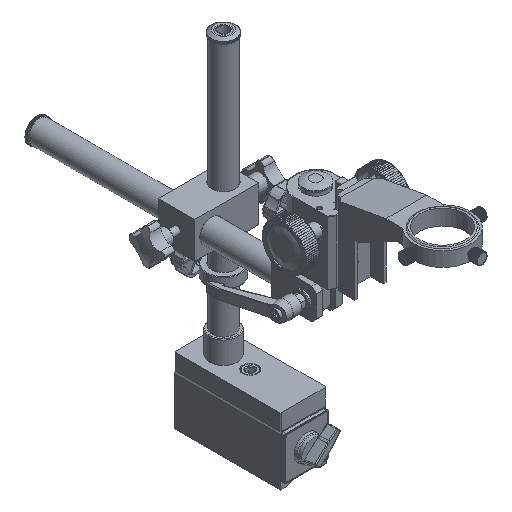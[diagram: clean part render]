
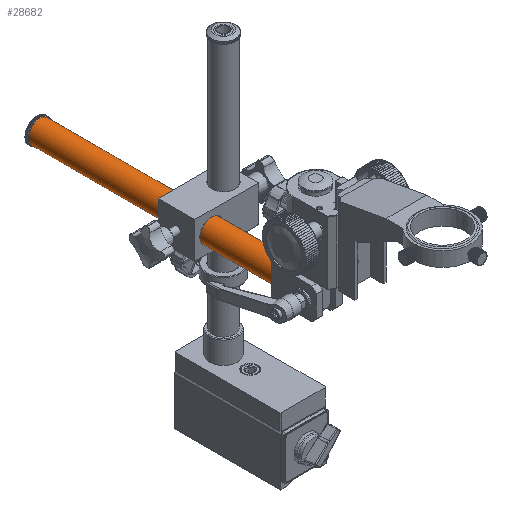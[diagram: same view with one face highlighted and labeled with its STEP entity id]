
A CAD part, isometric view. The second image highlights one B-rep face of the part: STEP entity #28682.
In plain terms, the highlighted cylindrical face has radius 12.5 mm (diameter 25 mm), a full revolution.
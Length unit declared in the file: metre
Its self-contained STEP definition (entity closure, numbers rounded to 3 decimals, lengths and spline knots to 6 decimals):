
#28682=ADVANCED_FACE('0:25961',(#57717,#57718),#57719,.T.);
#29320=EDGE_CURVE('0:26773',#58680,#58680,#58681,.T.);
#29322=EDGE_CURVE('0:26776',#58683,#58683,#58684,.T.);
#57717=FACE_OUTER_BOUND('',#152346,.T.);
#57718=FACE_OUTER_BOUND('',#152347,.T.);
#57719=CYLINDRICAL_SURFACE('',#152348,0.0125);
#58680=VERTEX_POINT('',#154090);
#58681=CIRCLE('',#154091,0.0125);
#58683=VERTEX_POINT('',#154094);
#58684=CIRCLE('',#154095,0.0125);
#152346=EDGE_LOOP('',(#194410));
#152347=EDGE_LOOP('',(#194411));
#152348=AXIS2_PLACEMENT_3D('',#194412,#194413,#194414);
#154090=CARTESIAN_POINT('',(-0.0455,0.259017,-0.002635));
#154091=AXIS2_PLACEMENT_3D('',#195576,#195577,#195578);
#154094=CARTESIAN_POINT('',(-0.0455,-0.010983,-0.002635));
#154095=AXIS2_PLACEMENT_3D('',#195579,#195580,#195581);
#194410=ORIENTED_EDGE('',*,*,#29320,.F.);
#194411=ORIENTED_EDGE('',*,*,#29322,.F.);
#194412=CARTESIAN_POINT('',(-0.033,-0.010983,-0.002635));
#194413=DIRECTION('',(0.,1.0,0.));
#194414=DIRECTION('',(-1.0,0.,0.));
#195576=CARTESIAN_POINT('',(-0.033,0.259017,-0.002635));
#195577=DIRECTION('',(0.,1.0,0.));
#195578=DIRECTION('',(-1.0,0.,0.));
#195579=CARTESIAN_POINT('',(-0.033,-0.010983,-0.002635));
#195580=DIRECTION('',(0.,-1.0,0.));
#195581=DIRECTION('',(-1.0,0.,0.));
